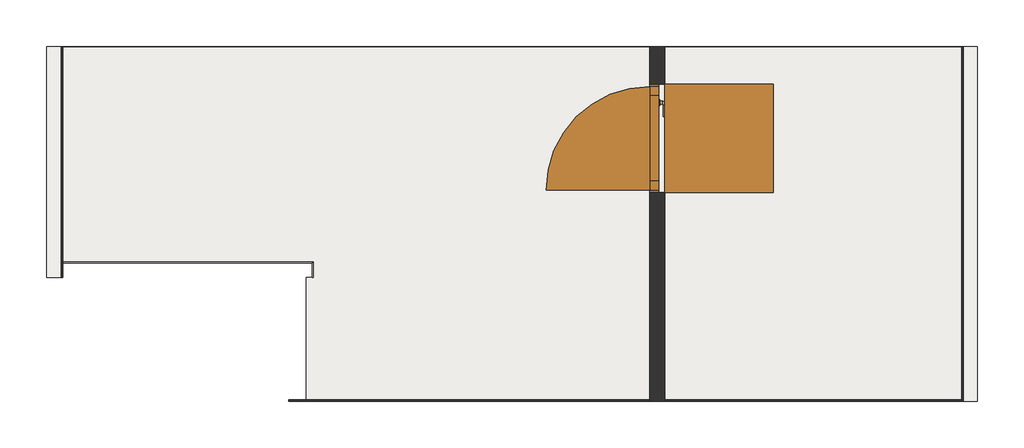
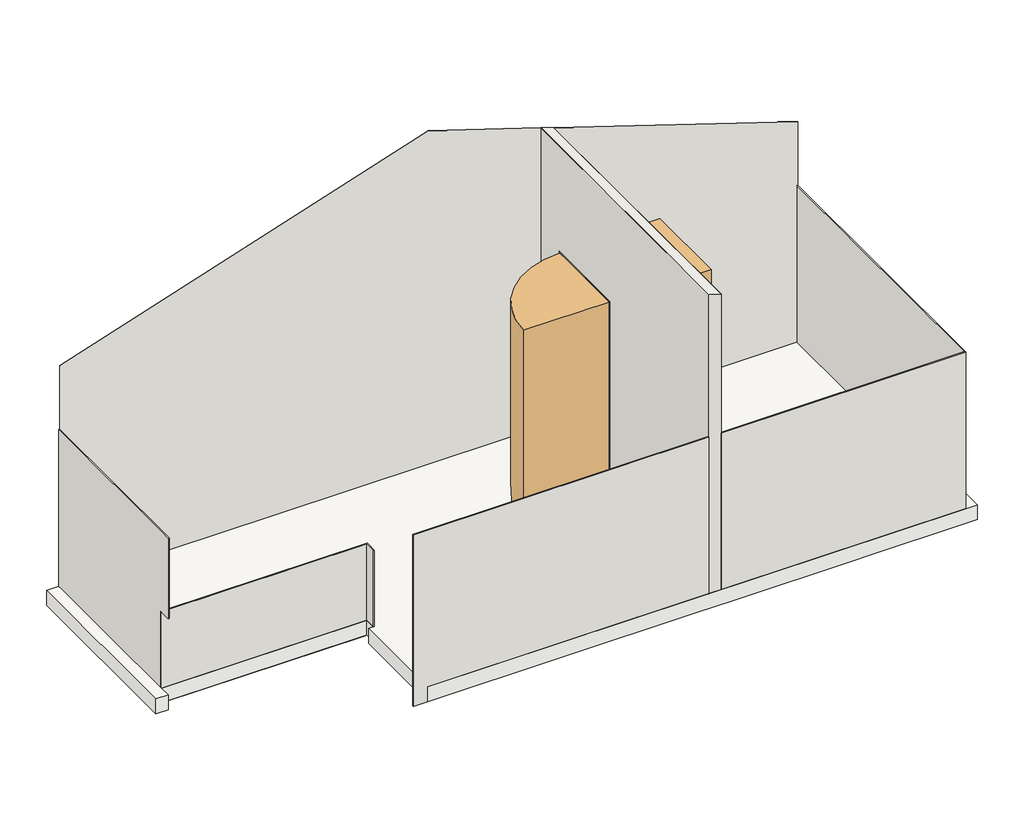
# One storey: 11 walls, 3 coverings, 1 door, 1 slab.
"""IFC4 building model written with IfcOpenShell, lengths in millimetres."""

from ifc_helpers import new_model, si_unit, frame, origin, place, context, project, spatial, polyline, outline, extrude, faceted_brep, transform, mapped, element, save
from components import door_26b594f7

model = new_model("IFC4")

# Units and contexts
model_context = context("Model", 3, world=origin())
ifc_project = project(units=[si_unit("LENGTHUNIT", "METRE", prefix="MILLI")], contexts=[model_context])

# Site, building, storey
site = spatial("IfcSite", under=ifc_project)
building = spatial("IfcBuilding", under=site)
storey = spatial("IfcBuildingStorey", under=building, Name="Этаж 02", Elevation=3000.0)

# Coverings
placement = place(None, origin())
element("IfcCovering", 1, ObjectType="ADSK_Потолок_Полимерное покрытие", at=placement, inside=storey, context=model_context, shape_type="SweptSolid", body=[
    extrude(outline(polyline([(4635.0, 25294.648381), (4635.0, 27099.0), (6714.9988121, 27099.0), (6714.9988121, 25294.648381), (4635.0, 25294.648381)])), frame((0.0, 0.0, 2830.0), z_axis=(0.0, 0.0, 1.0), x_axis=(1.0, 0.0, 0.0)), (0.0, 0.0, 1.0), 10.0),
])
element("IfcCovering", 2, ObjectType="ADSK_Потолок_Полимерное покрытие", at=placement, inside=storey, context=model_context, shape_type="SweptSolid", body=[
    extrude(outline(polyline([(11045.0, 27099.0), (11045.0, 24226.0), (9799.9869238, 24226.0), (9799.9869238, 24255.0), (9409.9369238, 24255.0), (9409.9369238, 24226.0), (6854.9988121, 24226.0), (6854.9988121, 27099.0), (11045.0, 27099.0)])), frame((0.0, 0.0, 2830.0), z_axis=(0.0, 0.0, 1.0), x_axis=(1.0, 0.0, 0.0)), (0.0, 0.0, 1.0), 10.0),
])
element("IfcCovering", 3, ObjectType="ADSK_Потолок_Полимерное покрытие", at=placement, inside=storey, context=model_context, shape_type="SweptSolid", body=[
    extrude(outline(polyline([(12074.0, 24226.0), (11276.0, 24226.0), (11276.0, 27099.0), (12074.0, 27099.0), (12074.0, 24226.0)])), frame((0.0, 0.0, 2830.0), z_axis=(0.0, 0.0, 1.0), x_axis=(1.0, 0.0, 0.0)), (0.0, 0.0, 1.0), 10.0),
])

# Door
door_shape = door_26b594f7(model_context)
element("IfcDoor", 4, ObjectType="Дверь_Противопожарная_Металлическая_Однопольная_Глухая : 910 х 2100(h)_Пр_EI30", at=placement, inside=storey, context=model_context, shape_type="MappedRepresentation", body=[
    mapped(door_shape, transform((9617.5, 26330.0, 3000.0), x_axis=(0.0, 1.0, 0.0), y_axis=(-1.0, 0.0, 0.0), z_axis=(0.0, 0.0, 1.0))),
])

# Slab
element("IfcSlab", 5, ObjectType="Тип 7", at=placement, inside=storey, context=model_context, shape_type="Brep", body=[
    faceted_brep([(12300.0, 24125.0, 2840.0), (12175.0, 24125.0, 2840.0), (11175.0, 24125.0, 2840.0), (11055.0, 24125.0, 2840.0), (9794.9369238, 24125.0, 2840.0), (9414.9369238, 24125.0, 2840.0), (6675.0, 24125.0, 2840.0), (6675.0, 25164.648381, 2840.0), (6724.9988121, 25164.648381, 2840.0), (6724.9988121, 25284.648381, 2840.0), (4625.0, 25284.648381, 2840.0), (4625.0, 25164.648381, 2840.0), (4500.0, 25164.648381, 2840.0), (4500.0, 27100.0, 2840.0), (4625.0, 27100.0, 2840.0), (11055.0, 27100.0, 2840.0), (11175.0, 27100.0, 2840.0), (12175.0, 27100.0, 2840.0), (12300.0, 27100.0, 2840.0), (6675.0, 24125.0, 3000.0), (12175.0, 24125.0, 3000.0), (12300.0, 24125.0, 3000.0), (12300.0, 27100.0, 3000.0), (12175.0, 27100.0, 3000.0), (4625.0, 27100.0, 3000.0), (4500.0, 27100.0, 3000.0), (4500.0, 25164.648381, 3000.0), (4625.0, 25164.648381, 3000.0), (4625.0, 25284.648381, 3000.0), (6724.9988121, 25284.648381, 3000.0), (6724.9988121, 25164.648381, 3000.0), (6675.0, 25164.648381, 3000.0)], [[[0, 1, 2, 3, 4, 5, 6, 7, 8, 9, 10, 11, 12, 13, 14, 15, 16, 17, 18]], [[19, 20, 21, 22, 23, 24, 25, 26, 27, 28, 29, 30, 31]], [[6, 5, 4, 3, 2, 1, 0, 21, 20, 19]], [[13, 12, 26, 25]], [[18, 17, 16, 15, 14, 13, 25, 24, 23, 22]], [[0, 18, 22, 21]], [[7, 6, 19, 31]], [[26, 12, 11, 27]], [[30, 8, 7, 31]], [[9, 29, 28, 10]], [[10, 28, 27, 11]], [[8, 30, 29, 9]]]),
])

# Walls
element("IfcWall", 6, ObjectType="Перегородка-КНАУФ-С362-Применение внутри здания-125/75@600 ГВЛ(ГВЛВ)  12,5", at=placement, inside=storey, context=model_context, shape_type="Brep", body=[
    faceted_brep([(9555.0, 27100.0, 6234.7087704), (9555.0, 27100.0, 3000.0), (9555.0, 27099.0, 3000.0), (9555.0, 26785.0, 3000.0), (9555.0, 26785.0, 5100.0), (9555.0, 25875.0, 5100.0), (9555.0, 25875.0, 3000.0), (9555.0, 24135.0, 3000.0), (9555.0, 24125.0, 3000.0), (9555.0, 24125.0, 4695.0), (9555.0, 24125.0, 6234.7087704), (9555.0, 24126.0, 6234.7087704), (9555.0, 27099.0, 6234.7087704), (9680.0, 27100.0, 3000.0), (9680.0, 27100.0, 6194.0928364), (9680.0, 27099.0, 6194.0928364), (9680.0, 24135.0, 6194.0928364), (9680.0, 24126.0, 6194.0928364), (9680.0, 24125.0, 6194.0928364), (9680.0, 24125.0, 4695.0), (9680.0, 24125.0, 3000.0), (9680.0, 24135.0, 3000.0), (9680.0, 25875.0, 3000.0), (9680.0, 25875.0, 5100.0), (9680.0, 26785.0, 5100.0), (9680.0, 26785.0, 3000.0), (9680.0, 27099.0, 3000.0)], [[[0, 1, 2, 3, 4, 5, 6, 7, 8, 9, 10, 11, 12]], [[13, 14, 15, 16, 17, 18, 19, 20, 21, 22, 23, 24, 25, 26]], [[20, 8, 7, 6, 22, 21]], [[1, 13, 26, 25, 3, 2]], [[1, 0, 14, 13]], [[4, 24, 23, 5]], [[5, 23, 22, 6]], [[24, 4, 3, 25]], [[8, 20, 19, 18, 10, 9]], [[0, 12, 11, 10, 18, 17, 16, 15, 14]]]),
])
element("IfcWall", 7, ObjectType="Отделка - Акриловая покраска_1 мм_Улучш. штук. по кирп._9 мм", at=placement, inside=storey, context=model_context, shape_type="Brep", body=[
    faceted_brep([(6725.0630762, 25294.648381, 3000.0), (6725.0630762, 25284.648381, 3000.0), (6725.0630762, 25164.648381, 3000.0), (6725.0630762, 25164.648381, 3825.0), (6725.0630762, 25284.648381, 3825.0), (6725.0630762, 25294.648381, 3825.0), (6735.0630762, 25294.648381, 3000.0), (6735.0630762, 25294.648381, 3825.0), (6735.0630762, 25164.648381, 3825.0), (6735.0630762, 25164.648381, 3000.0)], [[[0, 1, 2, 3, 4, 5]], [[6, 7, 8, 9]], [[2, 1, 0, 6, 9]], [[5, 4, 3, 8, 7]], [[0, 5, 7, 6]], [[3, 2, 9, 8]]]),
])
element("IfcWall", 8, ObjectType="Отделка - Акриловая покраска_1 мм_Улучш. штук. по кирп._9 мм", at=placement, inside=storey, context=model_context, shape_type="Brep", body=[
    faceted_brep([(4625.0, 25284.648381, 3000.0), (6725.0630762, 25284.648381, 3000.0), (6725.0630762, 25284.648381, 3825.0), (4625.0, 25284.648381, 3825.0), (4625.0, 25294.648381, 3000.0), (4625.0, 25294.648381, 3825.0), (4635.0, 25294.648381, 3825.0), (6725.0630762, 25294.648381, 3825.0), (6725.0630762, 25294.648381, 3000.0), (4635.0, 25294.648381, 3000.0)], [[[0, 1, 2, 3]], [[4, 5, 6, 7, 8, 9]], [[1, 0, 4, 9, 8]], [[3, 2, 7, 6, 5]], [[2, 1, 8, 7]], [[0, 3, 5, 4]]]),
])
element("IfcWall", 9, ObjectType="Отделка - Акриловая покраска_1 мм_Улучш. штук. по кирп._9 мм", at=placement, inside=storey, context=model_context, shape_type="Brep", body=[
    faceted_brep([(4625.0, 27100.0, 3000.0), (4625.0, 25294.648381, 3000.0), (4625.0, 25294.648381, 3825.0), (4625.0, 25164.648381, 3825.0), (4625.0, 25164.648381, 4695.0), (4625.0, 27100.0, 4695.0), (4635.0, 25294.648381, 3000.0), (4635.0, 27099.0, 3000.0), (4635.0, 27100.0, 3000.0), (4635.0, 27100.0, 4695.0), (4635.0, 25164.648381, 4695.0), (4635.0, 25164.648381, 3825.0), (4635.0, 25294.648381, 3825.0)], [[[0, 1, 2, 3, 4, 5]], [[6, 7, 8, 9, 10, 11, 12]], [[1, 0, 8, 7, 6]], [[9, 5, 4, 10]], [[2, 12, 11, 3]], [[2, 1, 6, 12]], [[4, 3, 11, 10]], [[0, 5, 9, 8]]]),
])
element("IfcWall", 10, ObjectType="Отделка - Заводское покрытие сэндвич-панелей", at=placement, inside=storey, context=model_context, shape_type="Brep", body=[
    faceted_brep([(9555.0, 27100.0, 3000.0), (4635.0, 27100.0, 3000.0), (4635.0, 27100.0, 4695.0), (4635.0, 27100.0, 5386.6480696), (8400.0, 27100.0, 6610.0), (9555.0, 27100.0, 6234.7087704), (9555.0, 27099.0, 3000.0), (9555.0, 27099.0, 6234.7087704), (8400.0, 27099.0, 6610.0), (4635.0, 27099.0, 5386.6480696), (4635.0, 27099.0, 3000.0)], [[[0, 1, 2, 3, 4, 5]], [[6, 7, 8, 9, 10]], [[1, 0, 6, 10]], [[0, 5, 7, 6]], [[5, 4, 8, 7]], [[4, 3, 9, 8]], [[3, 2, 1, 10, 9]]]),
])
element("IfcWall", 11, ObjectType="Отделка - Заводское покрытие сэндвич-панелей", at=placement, inside=storey, context=model_context, shape_type="Brep", body=[
    faceted_brep([(12180.0, 27100.0, 3000.0), (9680.0, 27100.0, 3000.0), (9680.0, 27100.0, 6194.0928364), (12180.0, 27100.0, 5381.7741576), (12180.0, 27099.0, 3000.0), (12180.0, 27099.0, 4695.0), (12180.0, 27099.0, 5381.7741576), (9680.0, 27099.0, 6194.0928364), (9680.0, 27099.0, 3000.0), (12170.0, 27099.0, 3000.0)], [[[0, 1, 2, 3]], [[4, 5, 6, 7, 8, 9]], [[1, 0, 4, 9, 8]], [[2, 1, 8, 7]], [[0, 3, 6, 5, 4]], [[3, 2, 7, 6]]]),
])
element("IfcWall", 12, ObjectType="Отделка - Акриловая покраска_1 мм_Улучш. штук. по кирп._9 мм", at=placement, inside=storey, context=model_context, shape_type="Brep", body=[
    faceted_brep([(9680.0, 24125.0, 3000.0), (12180.0, 24125.0, 3000.0), (12180.0, 24125.0, 4695.0), (9680.0, 24125.0, 4695.0), (9680.0, 24135.0, 3000.0), (9680.0, 24135.0, 4695.0), (12170.0, 24135.0, 4695.0), (12180.0, 24135.0, 4695.0), (12180.0, 24135.0, 3000.0), (12170.0, 24135.0, 3000.0), (9681.0, 24135.0, 3000.0)], [[[0, 1, 2, 3]], [[4, 5, 6, 7, 8, 9, 10]], [[1, 0, 4, 10, 9, 8]], [[3, 2, 7, 6, 5]], [[0, 3, 5, 4]], [[2, 1, 8, 7]]]),
])
element("IfcWall", 13, ObjectType="Отделка - Акриловая покраска_1 мм_Улучш. штук. по кирп._9 мм", at=placement, inside=storey, context=model_context, shape_type="SweptSolid", body=[
    extrude(outline(polyline([(12180.0, 27099.0), (12180.0, 24135.0), (12170.0, 24135.0), (12170.0, 27099.0), (12180.0, 27099.0)])), frame((0.0, 0.0, 3000.0), z_axis=(0.0, 0.0, 1.0), x_axis=(1.0, 0.0, 0.0)), (0.0, 0.0, 1.0), 1695.0),
])
element("IfcWall", 14, ObjectType="Отделка - Акриловая покраска_1 мм_Улучш. штук. по кирп._9 мм", at=placement, inside=storey, context=model_context, shape_type="Brep", body=[
    faceted_brep([(6529.9369238, 24125.0, 2840.0), (6534.9369238, 24125.0, 2840.0), (6675.0, 24125.0, 2840.0), (6675.0, 24125.0, 3000.0), (9555.0, 24125.0, 3000.0), (9555.0, 24125.0, 4695.0), (6529.9369238, 24125.0, 4695.0), (6529.9369238, 24135.0, 2840.0), (6529.9369238, 24135.0, 4695.0), (9555.0, 24135.0, 4695.0), (9555.0, 24135.0, 3000.0), (6675.0, 24135.0, 3000.0), (6675.0, 24135.0, 2840.0)], [[[0, 1, 2, 3, 4, 5, 6]], [[7, 8, 9, 10, 11, 12]], [[5, 4, 10, 9]], [[4, 3, 11, 10]], [[6, 5, 9, 8]], [[0, 6, 8, 7]], [[2, 1, 0, 7, 12]], [[3, 2, 12, 11]]]),
])
element("IfcWall", 15, ObjectType="Отделка - Акриловая покраска по Кнауф-суперлистам_1 мм", at=placement, inside=storey, context=model_context, shape_type="Brep", body=[
    faceted_brep([(9555.0, 24125.0, 6234.7087704), (9555.0, 24125.0, 3000.0), (9555.0, 25875.0, 3000.0), (9555.0, 25875.0, 5100.0), (9555.0, 26785.0, 5100.0), (9555.0, 26785.0, 3000.0), (9555.0, 27100.0, 3000.0), (9555.0, 27100.0, 6234.7087704), (9554.0, 27100.0, 6235.0336978), (9554.0, 27100.0, 3000.0), (9554.0, 26785.0, 3000.0), (9554.0, 26785.0, 5100.0), (9554.0, 25875.0, 5100.0), (9554.0, 25875.0, 3000.0), (9554.0, 24125.0, 3000.0), (9554.0, 24125.0, 6235.0336978)], [[[0, 1, 2, 3, 4, 5, 6, 7]], [[8, 9, 10, 11, 12, 13, 14, 15]], [[1, 14, 13, 2]], [[9, 6, 5, 10]], [[7, 6, 9, 8]], [[11, 4, 3, 12]], [[12, 3, 2, 13]], [[4, 11, 10, 5]], [[14, 1, 0, 15]], [[0, 7, 8, 15]]]),
])
element("IfcWall", 16, ObjectType="Отделка - Акриловая покраска по Кнауф-суперлистам_1 мм", at=placement, inside=storey, context=model_context, shape_type="Brep", body=[
    faceted_brep([(9680.0, 27100.0, 6194.0928364), (9680.0, 27100.0, 3000.0), (9680.0, 26785.0, 3000.0), (9680.0, 26785.0, 5100.0), (9680.0, 25875.0, 5100.0), (9680.0, 25875.0, 3000.0), (9680.0, 24135.0, 3000.0), (9680.0, 24135.0, 4695.0), (9680.0, 24135.0, 6194.0928364), (9681.0, 27100.0, 3000.0), (9681.0, 27100.0, 6193.7679089), (9681.0, 24135.0, 6193.7679089), (9681.0, 24135.0, 3000.0), (9681.0, 25875.0, 3000.0), (9681.0, 25875.0, 5100.0), (9681.0, 26785.0, 5100.0), (9681.0, 26785.0, 3000.0)], [[[0, 1, 2, 3, 4, 5, 6, 7, 8]], [[9, 10, 11, 12, 13, 14, 15, 16]], [[1, 9, 16, 2]], [[12, 6, 5, 13]], [[1, 0, 10, 9]], [[8, 7, 6, 12, 11]], [[3, 15, 14, 4]], [[4, 14, 13, 5]], [[15, 3, 2, 16]], [[0, 8, 11, 10]]]),
])

save(model, "model.ifc")
